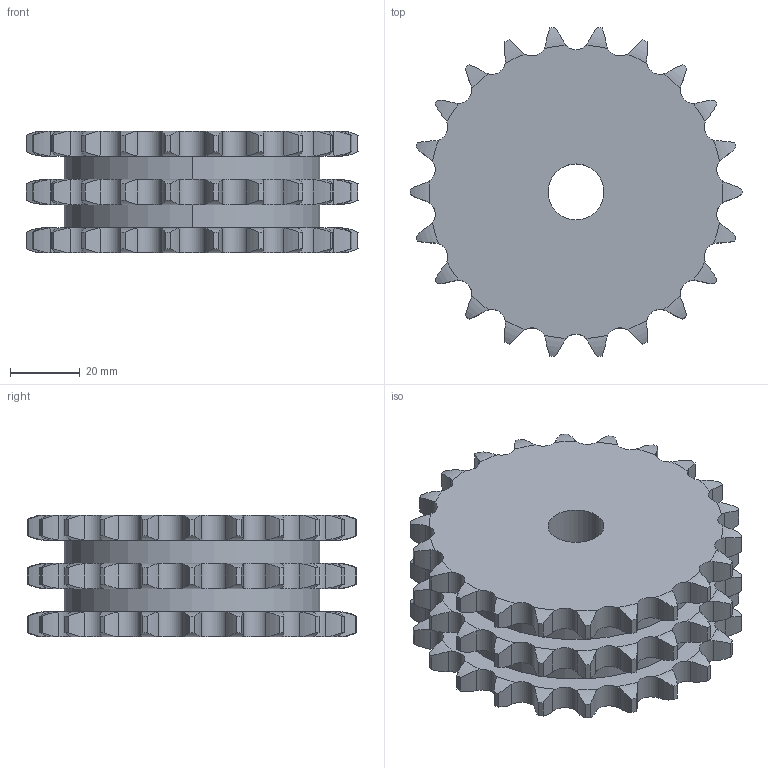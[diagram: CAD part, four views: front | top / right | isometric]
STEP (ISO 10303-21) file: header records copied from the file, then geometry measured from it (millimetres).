
FILE_DESCRIPTION((''),'2;1');
FILE_NAME('500-203-0022_PRT','2021-02-12T',('Brieden'),('Brieden'),'PRO/ENGINEER BY PARAMETRIC TECHNOLOGY CORPORATION, 2010160','PRO/ENGINEER BY PARAMETRIC TECHNOLOGY CORPORATION, 2010160','');
FILE_SCHEMA(('AUTOMOTIVE_DESIGN { 1 0 10303 214 1 1 1 1 }'));
Length unit declared in the file: millimetre
Products named in the file (1): 500-203-0022_PRT
Bounding box: 95 x 94.22 x 34.9 mm (x, y, z)
Volume: 175819.7 mm3; surface area: 31693 mm2
Topology: 1 solids, 1 shells, 408 faces, 1206 edges, 804 vertices
Faces by surface type: cylinder 270, torus 132, plane 6
Entity records: 19449 total; most frequent: CARTESIAN_POINT 5496, ORIENTED_EDGE 2412, DIRECTION 1902, PRESENTATION_STYLE_ASSIGNMENT 1207, STYLED_ITEM 1207, CURVE_STYLE 1206, EDGE_CURVE 1206, AXIS2_PLACEMENT_3D 816
